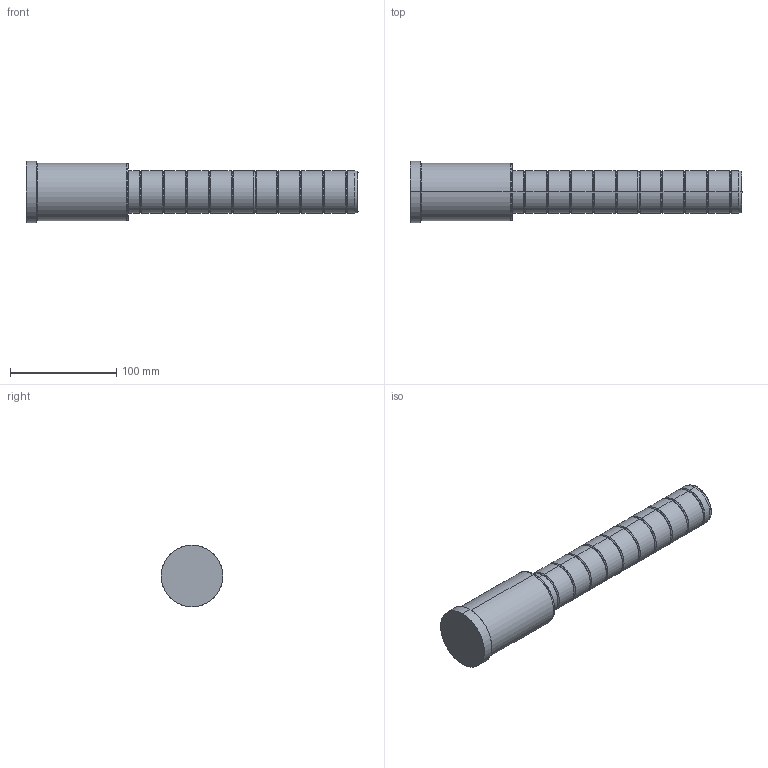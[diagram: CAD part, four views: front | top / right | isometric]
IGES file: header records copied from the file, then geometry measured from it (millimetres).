
Start section: SolidWorks IGES file using analytic representation for surfaces
Global section: file name: C:\Documents and Settings\kalite-mail\Desktop\IGS\D02\40\D02 - 40x96x216.IGS; native system: SolidWorks 2008; preprocessor: SolidWorks 2008; author: kalite-mail; date: 080617.101646; units: millimetre
Bounding box: 312 x 58 x 58 mm (x, y, z)
Surface area: 49958.8 mm2 (no closed solid volume)
Topology: 0 solids, 0 shells, 84 faces, 952 edges, 952 vertices
Faces by surface type: bspline 50, revolution 34
